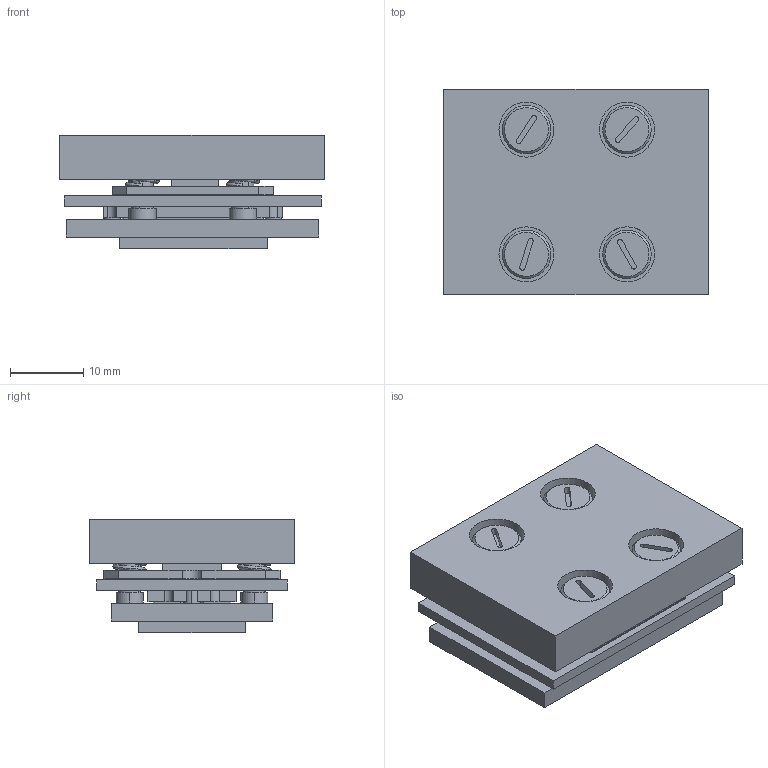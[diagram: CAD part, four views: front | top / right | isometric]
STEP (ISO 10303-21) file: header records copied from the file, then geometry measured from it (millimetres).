
FILE_DESCRIPTION (( 'STEP AP214' ), '1' );
FILE_NAME ('2518991.STEP', '2023-07-25T11:25:50', ( '' ), ( '' ), 'SwSTEP 2.0', 'SolidWorks 2021', '' );
FILE_SCHEMA (( 'AUTOMOTIVE_DESIGN' ));
Length unit declared in the file: millimetre
Products named in the file (22): s322-PCB-Pad-Pattern; Elec-Pad-s322-PCB-DMD; s322-Pad-Pattern; 2518814; Ceramic-s322; Elec-Pad-s322-DMD; 2518993; LEE SPRING LC020CD 02M_aSSY-iSO; 2518991; Window-s322; Test-Elec-Pad-s322; 2518992 ; SymPad-s322; 2518994; 2518808; 2518992-FR4; 2518996; 2518995; s322-DMD-Assy-wPads; 2518816-Compressed_aSSY-iSO; 2512939-Comp; LEE SPRING LCM060B 02M_aSSY-iSO
Assembly tree (338 placements, depth 4):
  2518991
    2518993
    s322-DMD-Assy-wPads
      Ceramic-s322
      Window-s322
      s322-Pad-Pattern
        Elec-Pad-s322-DMD  x151
        Test-Elec-Pad-s322  x8
      SymPad-s322
    2518808
    2518992 
      2518992-FR4
      s322-PCB-Pad-Pattern
        Elec-Pad-s322-PCB-DMD  x151
    2518995
    2518994
    2518814  x4
    2518816-Compressed_aSSY-iSO
    2518996
    LEE SPRING LCM060B 02M_aSSY-iSO  x4
    LEE SPRING LC020CD 02M_aSSY-iSO  x4
    2512939-Comp  x2
Bounding box: 36 x 28 x 15.49 mm (x, y, z)
Volume: 9954.6 mm3; surface area: 12327 mm2
Topology: 334 solids, 334 shells, 3305 faces, 6810 edges, 4511 vertices
Faces by surface type: plane 2418, cylinder 808, torus 32, cone 31, bspline 16
Entity records: 43379 total; most frequent: CARTESIAN_POINT 8673, DIRECTION 7818, ORIENTED_EDGE 5814, AXIS2_PLACEMENT_3D 3244, EDGE_CURVE 2907, VERTEX_POINT 1925, EDGE_LOOP 1722, CIRCLE 1561
